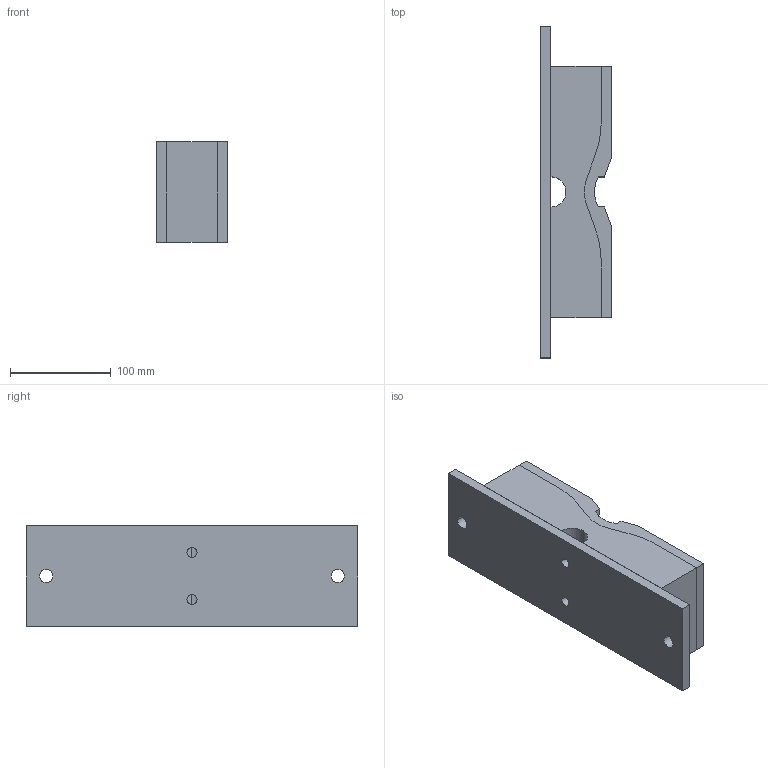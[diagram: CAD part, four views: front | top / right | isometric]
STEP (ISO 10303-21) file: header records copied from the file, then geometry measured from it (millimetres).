
FILE_DESCRIPTION(('STEP AP214'),'1');
FILE_NAME('TR_LA_100.stp','2019-12-19T13:11:13',(' '),(' '),'Spatial InterOp 3D',' ',' ');
FILE_SCHEMA(('automotive_design'));
Length unit declared in the file: millimetre
Products named in the file (3): Bauteil51; Bauteil53; Bauteil54
Bounding box: 70 x 330 x 100 mm (x, y, z)
Volume: 1698886.6 mm3; surface area: 219439.2 mm2
Topology: 3 solids, 3 shells, 62 faces, 168 edges, 112 vertices
Faces by surface type: plane 40, cylinder 22
Entity records: 2514 total; most frequent: CARTESIAN_POINT 345, DIRECTION 342, ORIENTED_EDGE 336, EDGE_CURVE 168, LINE 124, VECTOR 124, VERTEX_POINT 112, AXIS2_PLACEMENT_3D 109
